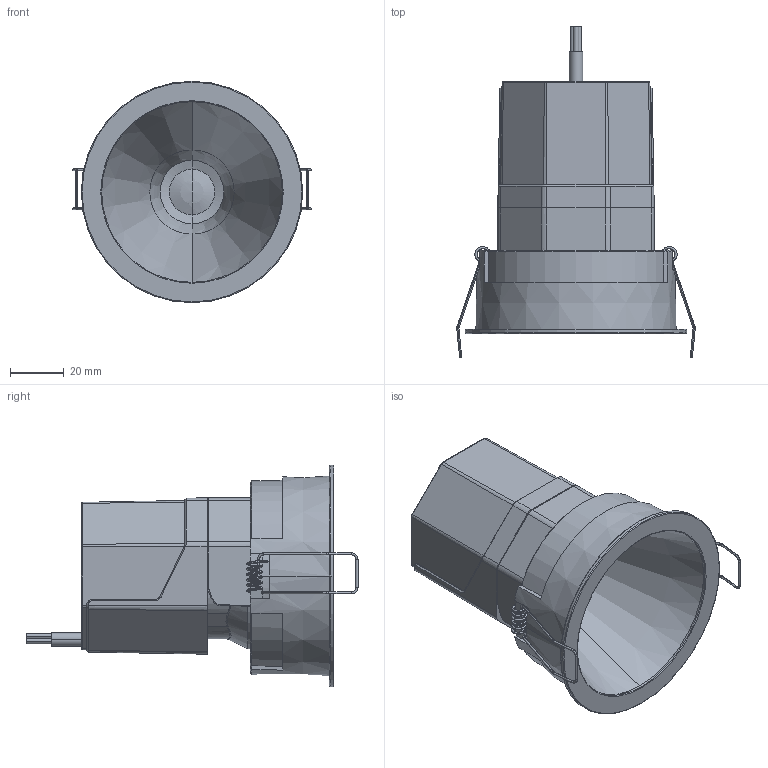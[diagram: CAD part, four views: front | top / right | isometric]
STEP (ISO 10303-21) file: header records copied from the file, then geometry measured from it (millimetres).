
FILE_DESCRIPTION((''),'2;1');
FILE_NAME('ASM0001_ASM','2025-12-25T17:31:58',('Administrator'),(''),'CREO PARAMETRIC BY PTC INC, 2021164','CREO PARAMETRIC BY PTC INC, 2021164','');
FILE_SCHEMA(('CONFIG_CONTROL_DESIGN','SHAPE_APPEARANCE_LAYERS_GROUPS'));
Length unit declared in the file: millimetre
Products named in the file (9): PRT0001; PRT0002; PRT0003; PRT0004; PRT0005; PRT0006; A1; PRT0007; ASM0001_ASM
Assembly tree (8 placements, depth 2):
  ASM0001_ASM
    PRT0001
    PRT0002
    PRT0003
    PRT0004
    PRT0005
    PRT0006
    A1
    PRT0007
Bounding box: 88.56 x 123.26 x 82.2 mm (x, y, z)
Volume: 124435.2 mm3; surface area: 87354 mm2
Topology: 8 solids, 8 shells, 681 faces, 1664 edges, 1013 vertices
Faces by surface type: cylinder 251, plane 211, torus 108, bspline 58, cone 49, sphere 4
Entity records: 35766 total; most frequent: CARTESIAN_POINT 9846, DIRECTION 3424, ORIENTED_EDGE 3324, PRESENTATION_STYLE_ASSIGNMENT 2351, STYLED_ITEM 2344, CURVE_STYLE 1662, EDGE_CURVE 1662, AXIS2_PLACEMENT_3D 1335
